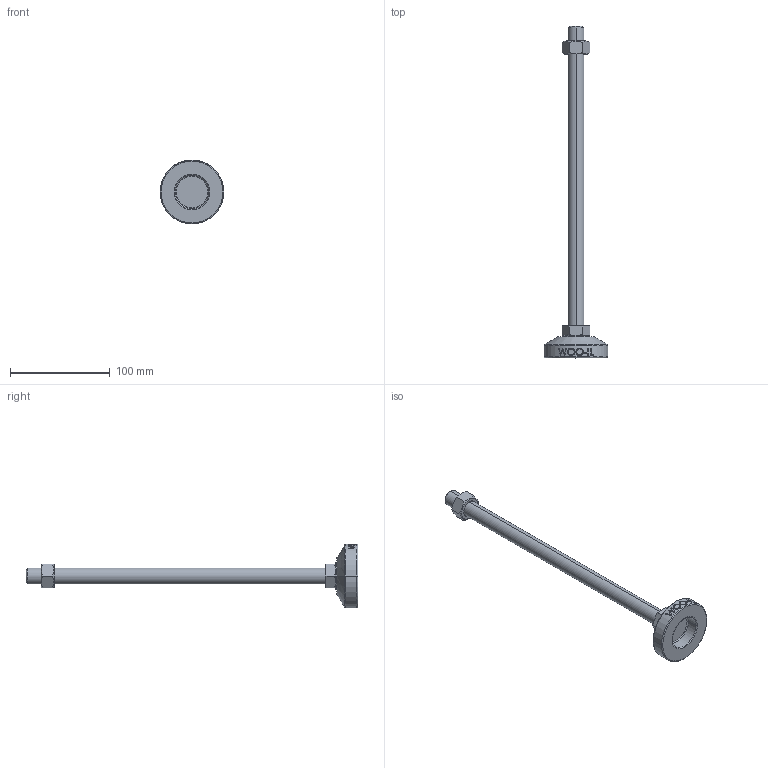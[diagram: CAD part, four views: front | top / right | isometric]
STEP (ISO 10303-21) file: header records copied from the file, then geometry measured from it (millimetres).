
FILE_DESCRIPTION (( 'STEP AP214' ), '1' );
FILE_NAME ('MFZ64-M16-300.step', '2021-01-15T07:06:37', ( '' ), ( '' ), 'SwSTEP 2.0', 'SolidWorks 2019', '' );
FILE_SCHEMA (( 'AUTOMOTIVE_DESIGN' ));
Length unit declared in the file: millimetre
Products named in the file (2): MFZ64-M16-300
Bounding box: 64 x 332 x 64 mm (x, y, z)
Volume: 116710.2 mm3; surface area: 29676.3 mm2
Topology: 3 solids, 3 shells, 106 faces, 243 edges, 154 vertices
Faces by surface type: plane 48, cylinder 18, bspline 16, cone 14, torus 10
Entity records: 4520 total; most frequent: CARTESIAN_POINT 2177, ORIENTED_EDGE 486, DIRECTION 439, EDGE_CURVE 243, AXIS2_PLACEMENT_3D 170, VERTEX_POINT 154, EDGE_LOOP 119, FACE_OUTER_BOUND 106
